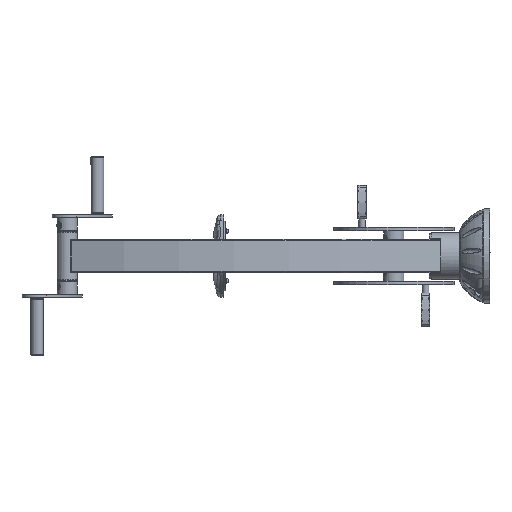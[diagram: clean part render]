
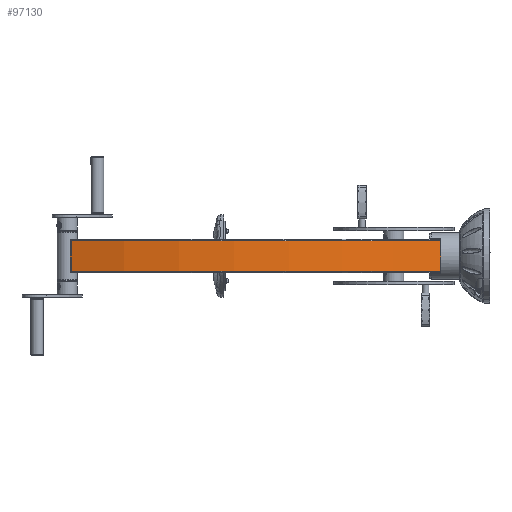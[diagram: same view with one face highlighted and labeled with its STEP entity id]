
A CAD part, left-side view. The second image highlights one B-rep face of the part: STEP entity #97130.
In plain terms, the highlighted cylindrical face has radius 1225 mm (diameter 2450 mm), a partial arc.
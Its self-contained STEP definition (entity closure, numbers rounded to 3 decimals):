
#3204 = EDGE_CURVE ( 'NONE', #95395, #52944, #96757, .T. ) ;
#4154 = ORIENTED_EDGE ( 'NONE', *, *, #55799, .T. ) ;
#6097 = AXIS2_PLACEMENT_3D ( 'NONE', #13059, #89906, #35628 ) ;
#7100 = CARTESIAN_POINT ( 'NONE',  ( -145., 146.3, 45. ) ) ;
#10481 = CARTESIAN_POINT ( 'NONE',  ( -300.299, 1250.224, 45. ) ) ;
#12606 = AXIS2_PLACEMENT_3D ( 'NONE', #89962, #44318, #90292 ) ;
#13059 = CARTESIAN_POINT ( 'NONE',  ( 857.555, 850.224, 45. ) ) ;
#19177 = EDGE_CURVE ( 'NONE', #72254, #52944, #37723, .T. ) ;
#24656 = FACE_OUTER_BOUND ( 'NONE', #31118, .T. ) ;
#29119 = CARTESIAN_POINT ( 'NONE',  ( -145., 146.3, -45. ) ) ;
#31118 = EDGE_LOOP ( 'NONE', ( #98323, #4154, #45911, #55224 ) ) ;
#34464 = DIRECTION ( 'NONE',  ( 0., 0., -1. ) ) ;
#35628 = DIRECTION ( 'NONE',  ( -1., 0., 0. ) ) ;
#37723 = LINE ( 'NONE', #10481, #63866 ) ;
#44318 = DIRECTION ( 'NONE',  ( 0., 0., -1. ) ) ;
#45911 = ORIENTED_EDGE ( 'NONE', *, *, #3204, .T. ) ;
#46796 = CARTESIAN_POINT ( 'NONE',  ( -300.299, 1250.224, 45. ) ) ;
#50224 = CARTESIAN_POINT ( 'NONE',  ( -145., 146.3, 45. ) ) ;
#52944 = VERTEX_POINT ( 'NONE', #46796 ) ;
#55224 = ORIENTED_EDGE ( 'NONE', *, *, #19177, .F. ) ;
#55377 = DIRECTION ( 'NONE',  ( 0., 0., 1. ) ) ;
#55799 = EDGE_CURVE ( 'NONE', #63525, #95395, #70743, .T. ) ;
#59311 = CYLINDRICAL_SURFACE ( 'NONE', #12606, 1225. ) ;
#60675 = AXIS2_PLACEMENT_3D ( 'NONE', #64779, #34464, #81454 ) ;
#60715 = CIRCLE ( 'NONE', #60675, 1225. ) ;
#62582 = DIRECTION ( 'NONE',  ( 0., 0., 1. ) ) ;
#63453 = EDGE_CURVE ( 'NONE', #63525, #72254, #60715, .T. ) ;
#63525 = VERTEX_POINT ( 'NONE', #29119 ) ;
#63866 = VECTOR ( 'NONE', #55377, 1000. ) ;
#64779 = CARTESIAN_POINT ( 'NONE',  ( 857.555, 850.224, -45. ) ) ;
#69831 = CARTESIAN_POINT ( 'NONE',  ( -300.299, 1250.224, -45. ) ) ;
#70743 = LINE ( 'NONE', #7100, #88708 ) ;
#72254 = VERTEX_POINT ( 'NONE', #69831 ) ;
#81454 = DIRECTION ( 'NONE',  ( -1., 0., 0. ) ) ;
#88708 = VECTOR ( 'NONE', #62582, 1000. ) ;
#89906 = DIRECTION ( 'NONE',  ( 0., 0., -1. ) ) ;
#89962 = CARTESIAN_POINT ( 'NONE',  ( 857.555, 850.224, 0. ) ) ;
#90292 = DIRECTION ( 'NONE',  ( -1., 0., 0. ) ) ;
#95395 = VERTEX_POINT ( 'NONE', #50224 ) ;
#96757 = CIRCLE ( 'NONE', #6097, 1225. ) ;
#97130 = ADVANCED_FACE ( 'NONE', ( #24656 ), #59311, .T. ) ;
#98323 = ORIENTED_EDGE ( 'NONE', *, *, #63453, .F. ) ;
